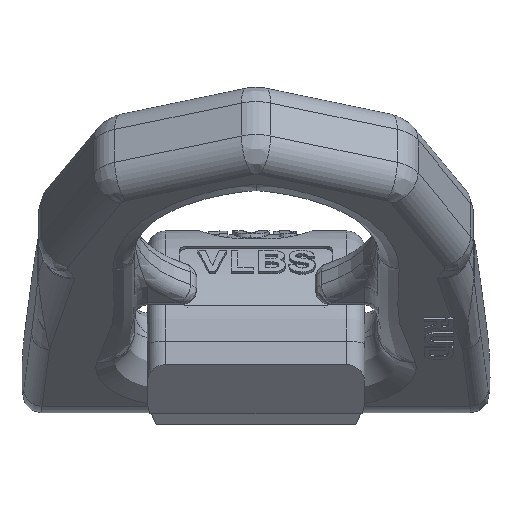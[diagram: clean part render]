
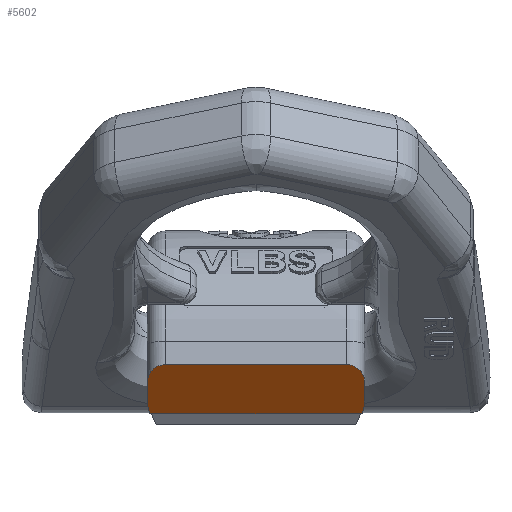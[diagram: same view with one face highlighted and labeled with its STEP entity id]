
A CAD part, top view. The second image highlights one B-rep face of the part: STEP entity #5602.
In plain terms, the highlighted planar face has unit normal (0, -0.643, 0.766).
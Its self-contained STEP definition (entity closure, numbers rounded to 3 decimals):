
#2=DIRECTION('',(0.,-0.766,-0.643));
#3=VECTOR('',#2,5.783);
#4=CARTESIAN_POINT('',(-30.,11.5,33.305));
#5=LINE('',#4,#3);
#59=DIRECTION('',(0.,-0.766,-0.643));
#60=VECTOR('',#59,5.783);
#61=CARTESIAN_POINT('',(30.,11.5,33.305));
#62=LINE('',#61,#60);
#450=CARTESIAN_POINT('',(-29.347,3.,26.172));
#451=CARTESIAN_POINT('',(-29.787,4.335,27.293));
#452=CARTESIAN_POINT('',(-30.,5.692,28.431));
#453=CARTESIAN_POINT('',(-30.,7.07,29.587));
#481=CARTESIAN_POINT('',(25.,16.5,37.5));
#482=CARTESIAN_POINT('',(25.48,16.5,37.5));
#483=CARTESIAN_POINT('',(26.277,16.374,37.395));
#484=CARTESIAN_POINT('',(27.557,15.883,36.983));
#485=CARTESIAN_POINT('',(28.749,14.957,36.205));
#486=CARTESIAN_POINT('',(29.704,13.48,34.966));
#487=CARTESIAN_POINT('',(30.,12.236,33.922));
#488=CARTESIAN_POINT('',(30.,11.5,33.305));
#494=DIRECTION('',(1.,0.,0.));
#495=VECTOR('',#494,50.);
#496=CARTESIAN_POINT('',(-25.,16.5,37.5));
#497=LINE('',#496,#495);
#511=CARTESIAN_POINT('',(-30.,11.5,33.305));
#512=CARTESIAN_POINT('',(-30.,12.236,33.922));
#513=CARTESIAN_POINT('',(-29.704,13.48,34.966));
#514=CARTESIAN_POINT('',(-28.749,14.957,36.205));
#515=CARTESIAN_POINT('',(-27.557,15.883,36.983));
#516=CARTESIAN_POINT('',(-26.277,16.374,37.395));
#517=CARTESIAN_POINT('',(-25.48,16.5,37.5));
#518=CARTESIAN_POINT('',(-25.,16.5,37.5));
#4043=CARTESIAN_POINT('',(30.,7.07,29.587));
#4044=CARTESIAN_POINT('',(30.,5.692,28.431));
#4045=CARTESIAN_POINT('',(29.787,4.335,27.293));
#4046=CARTESIAN_POINT('',(29.347,3.,26.172));
#4069=DIRECTION('',(-1.,0.,0.));
#4070=VECTOR('',#4069,58.693);
#4071=CARTESIAN_POINT('',(29.347,3.,26.172));
#4072=LINE('',#4071,#4070);
#4269=CARTESIAN_POINT('',(25.,16.5,37.5));
#4271=VERTEX_POINT('',#4269);
#4274=CARTESIAN_POINT('',(-25.,16.5,37.5));
#4276=VERTEX_POINT('',#4274);
#4569=CARTESIAN_POINT('',(30.,7.07,29.587));
#4570=VERTEX_POINT('',#4569);
#4571=CARTESIAN_POINT('',(-30.,7.07,29.587));
#4572=VERTEX_POINT('',#4571);
#4575=CARTESIAN_POINT('',(30.,11.5,33.305));
#4576=VERTEX_POINT('',#4575);
#4577=CARTESIAN_POINT('',(-30.,11.5,33.305));
#4578=VERTEX_POINT('',#4577);
#4822=VERTEX_POINT('',#4046);
#4823=VERTEX_POINT('',#450);
#5582=CARTESIAN_POINT('',(36.,16.5,37.5));
#5583=DIRECTION('',(0.,-0.643,0.766));
#5584=DIRECTION('',(0.,-0.766,-0.643));
#5585=AXIS2_PLACEMENT_3D('',#5582,#5583,#5584);
#5586=PLANE('',#5585);
#5588=ORIENTED_EDGE('',*,*,#5587,.T.);
#5589=ORIENTED_EDGE('',*,*,#5011,.T.);
#5591=ORIENTED_EDGE('',*,*,#5590,.T.);
#5593=ORIENTED_EDGE('',*,*,#5592,.T.);
#5594=ORIENTED_EDGE('',*,*,#5568,.T.);
#5595=ORIENTED_EDGE('',*,*,#4921,.F.);
#5597=ORIENTED_EDGE('',*,*,#5596,.T.);
#5599=ORIENTED_EDGE('',*,*,#5598,.T.);
#5600=EDGE_LOOP('',(#5588,#5589,#5591,#5593,#5594,#5595,#5597,#5599));
#5601=FACE_OUTER_BOUND('',#5600,.F.);
#5602=ADVANCED_FACE('',(#5601),#5586,.T.);
#454=B_SPLINE_CURVE_WITH_KNOTS('',3,(#450,#451,#452,#453),.UNSPECIFIED.,.F.,.F.,
(4,4),(0.,1.),.UNSPECIFIED.);
#489=B_SPLINE_CURVE_WITH_KNOTS('',3,(#481,#482,#483,#484,#485,#486,#487,#488),
.UNSPECIFIED.,.F.,.F.,(4,1,1,1,1,4),(0.,0.125,0.25,0.5,0.75,1.),
.UNSPECIFIED.);
#519=B_SPLINE_CURVE_WITH_KNOTS('',3,(#511,#512,#513,#514,#515,#516,#517,#518),
.UNSPECIFIED.,.F.,.F.,(4,1,1,1,1,4),(0.,0.25,0.5,0.75,0.875,1.),
.UNSPECIFIED.);
#4047=B_SPLINE_CURVE_WITH_KNOTS('',3,(#4043,#4044,#4045,#4046),.UNSPECIFIED.,
.F.,.F.,(4,4),(0.,1.),.UNSPECIFIED.);
#4921=EDGE_CURVE('',#4578,#4572,#5,.T.);
#5011=EDGE_CURVE('',#4576,#4570,#62,.T.);
#5568=EDGE_CURVE('',#4823,#4572,#454,.T.);
#5587=EDGE_CURVE('',#4271,#4576,#489,.T.);
#5590=EDGE_CURVE('',#4570,#4822,#4047,.T.);
#5592=EDGE_CURVE('',#4822,#4823,#4072,.T.);
#5596=EDGE_CURVE('',#4578,#4276,#519,.T.);
#5598=EDGE_CURVE('',#4276,#4271,#497,.T.);
